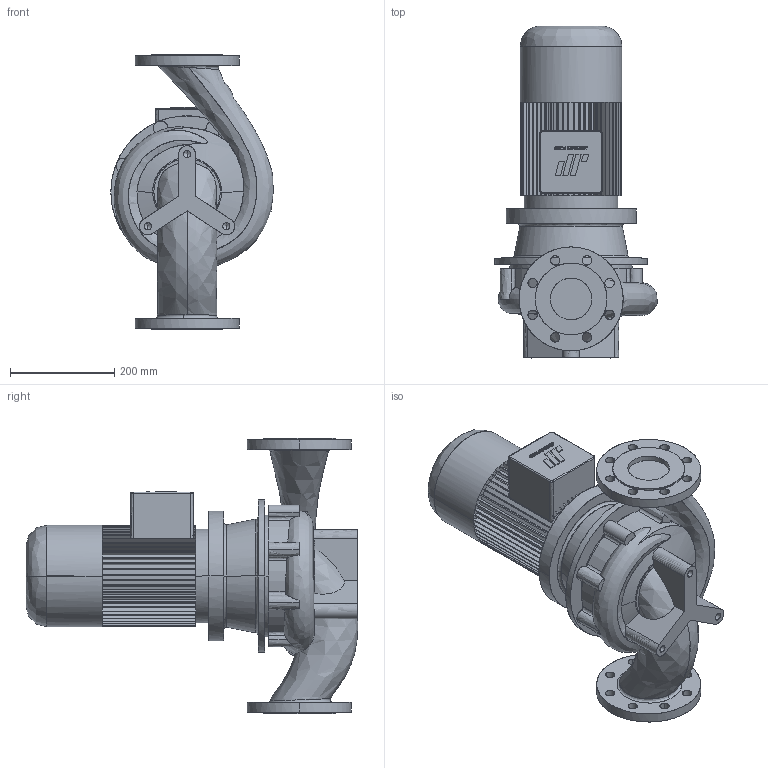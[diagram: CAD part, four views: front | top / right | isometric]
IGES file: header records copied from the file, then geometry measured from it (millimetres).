
Start section: CombiLine
Global section: file name: CLB_80-200_IEC100L_ND10.igs; native system:  By UGS Corp.; preprocessor: XPlus GENERIC/IGES 3.0; author: Stageplaats; organization: Johnson Pump Water B.V.; date: 20070717.093255; units: millimetre
Bounding box: 311.88 x 638 x 530 mm (x, y, z)
Surface area: 1054171.6 mm2 (no closed solid volume)
Topology: 0 solids, 0 shells, 684 faces, 3942 edges, 3936 vertices
Faces by surface type: bspline 684
